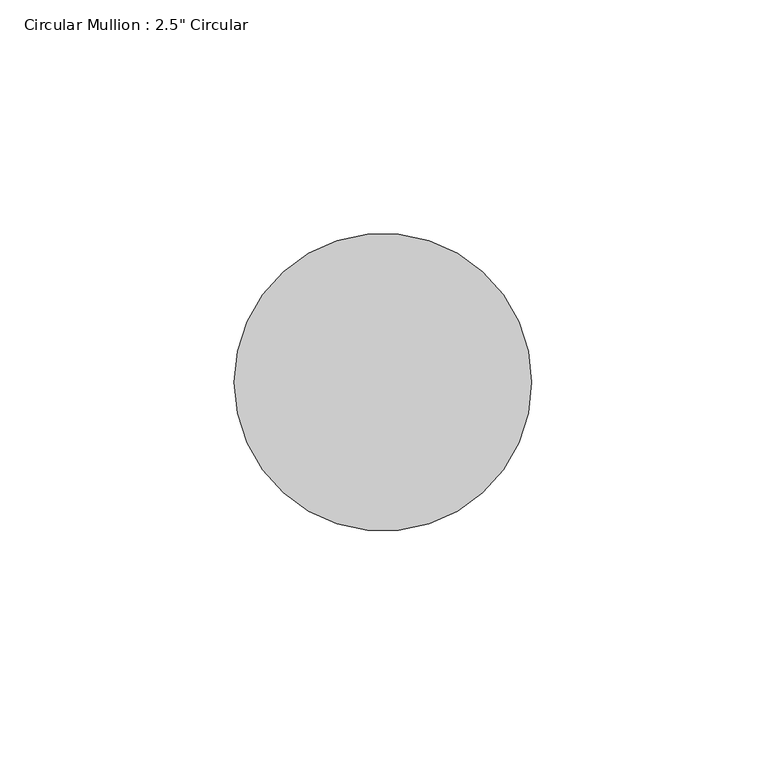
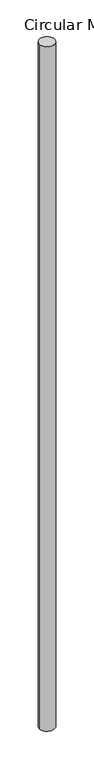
"""IFC4 building model written with IfcOpenShell, lengths in millimetres: member geometry."""

from ifc_helpers import new_model, si_unit, point, frame, origin, origin_2d, place, context, project, spatial, circle_curve, trimmed, segment, composite_curve, outline, extrude, source, transform, mapped, element, save


def member_44725ada(model_context):
    return source(origin(), model_context, "Body", "SweptSolid", [
        extrude(outline(composite_curve([segment(trimmed(circle_curve(origin_2d(), 31.75), [point((31.75, 0.0))], [point((-31.75, 0.0))], False, "CARTESIAN"), True, "CONTINUOUS"), segment(trimmed(circle_curve(origin_2d(), 31.75), [point((-31.75, 0.0))], [point((31.75, 0.0))], False, "CARTESIAN"), True, "CONTINUOUS")], self_intersect=False)), frame((0.0, 0.0, -3000.2607868), z_axis=(0.0, 0.0, 1.0), x_axis=(1.0, 0.0, 0.0)), (0.0, 0.0, 1.0), 3000.2607868),
    ])


if __name__ == "__main__":
    model = new_model("IFC4")
    model_context = context("Model", 3, world=origin())
    ifc_project = project(units=[si_unit("LENGTHUNIT", "METRE", prefix="MILLI")], contexts=[model_context])
    site = spatial("IfcSite", under=ifc_project)
    building = spatial("IfcBuilding", under=site)
    placement = place(None, origin())
    member_shape = member_44725ada(model_context)
    element("IfcMember", 1, ObjectType="Circular Mullion : 2.5\" Circular", at=placement, inside=building, context=model_context, shape_type="MappedRepresentation", body=[
        mapped(member_shape, transform((0.0, 0.0, 0.0), x_axis=(1.0, 0.0, 0.0), y_axis=(0.0, 1.0, 0.0), z_axis=(0.0, 0.0, 1.0))),
    ])
    save(model, "model.ifc")
